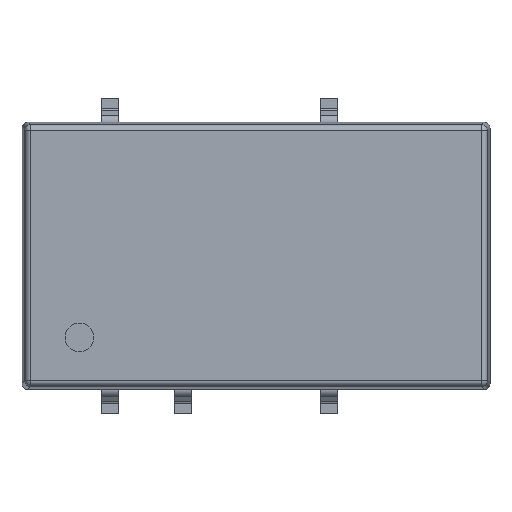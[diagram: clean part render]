
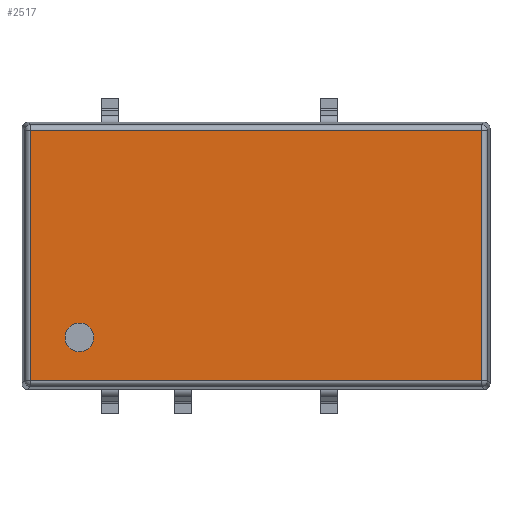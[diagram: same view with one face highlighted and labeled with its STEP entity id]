
A CAD part, top view. The second image highlights one B-rep face of the part: STEP entity #2517.
In plain terms, the highlighted planar face has unit normal (0, 0, 1).
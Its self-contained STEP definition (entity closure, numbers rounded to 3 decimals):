
#14=FACE_BOUND('',#367,.T.);
#92=CIRCLE('',#2684,0.5);
#222=FACE_OUTER_BOUND('',#366,.T.);
#366=EDGE_LOOP('',(#1694,#1695,#1696,#1697));
#367=EDGE_LOOP('',(#1698));
#511=LINE('',#4023,#759);
#514=LINE('',#4028,#762);
#515=LINE('',#4030,#763);
#519=LINE('',#4036,#767);
#759=VECTOR('',#2968,8.71);
#762=VECTOR('',#2975,15.71);
#763=VECTOR('',#2978,15.71);
#767=VECTOR('',#2986,8.71);
#1023=VERTEX_POINT('',#4002);
#1025=VERTEX_POINT('',#4007);
#1027=VERTEX_POINT('',#4013);
#1029=VERTEX_POINT('',#4018);
#1030=VERTEX_POINT('',#4039);
#1279=EDGE_CURVE('',#1029,#1027,#511,.T.);
#1282=EDGE_CURVE('',#1025,#1029,#514,.T.);
#1283=EDGE_CURVE('',#1027,#1023,#515,.T.);
#1287=EDGE_CURVE('',#1023,#1025,#519,.T.);
#1288=EDGE_CURVE('',#1030,#1030,#92,.T.);
#1694=ORIENTED_EDGE('',*,*,#1279,.F.);
#1695=ORIENTED_EDGE('',*,*,#1282,.F.);
#1696=ORIENTED_EDGE('',*,*,#1287,.F.);
#1697=ORIENTED_EDGE('',*,*,#1283,.F.);
#1698=ORIENTED_EDGE('',*,*,#1288,.T.);
#2252=PLANE('',#2683);
#2517=ADVANCED_FACE('',(#222,#14),#2252,.T.);
#2683=AXIS2_PLACEMENT_3D('',#4038,#2989,#2990);
#2684=AXIS2_PLACEMENT_3D('',#4040,#2991,#2992);
#2968=DIRECTION('',(0.,1.,0.));
#2975=DIRECTION('',(-1.,0.,0.));
#2978=DIRECTION('',(1.,0.,0.));
#2986=DIRECTION('',(0.,-1.,0.));
#2989=DIRECTION('center_axis',(0.,0.,
1.));
#2990=DIRECTION('ref_axis',(0.,-1.,0.));
#2991=DIRECTION('center_axis',(0.,0.,
-1.));
#2992=DIRECTION('ref_axis',(0.,1.,0.));
#4002=CARTESIAN_POINT('',(2.744,6.353,6.275));
#4007=CARTESIAN_POINT('',(2.744,-2.357,6.275));
#4013=CARTESIAN_POINT('',(-12.966,6.353,6.275));
#4018=CARTESIAN_POINT('',(-12.966,-2.357,6.275));
#4023=CARTESIAN_POINT('',(-12.966,-0.327,6.275));
#4028=CARTESIAN_POINT('',(-1.036,-2.357,6.275));
#4030=CARTESIAN_POINT('',(-9.186,6.353,6.275));
#4036=CARTESIAN_POINT('',(2.744,4.323,6.275));
#4038=CARTESIAN_POINT('Origin',(-5.111,1.998,6.275));
#4039=CARTESIAN_POINT('',(-11.261,-1.352,6.275));
#4040=CARTESIAN_POINT('Origin',(-11.261,-0.852,6.275));
